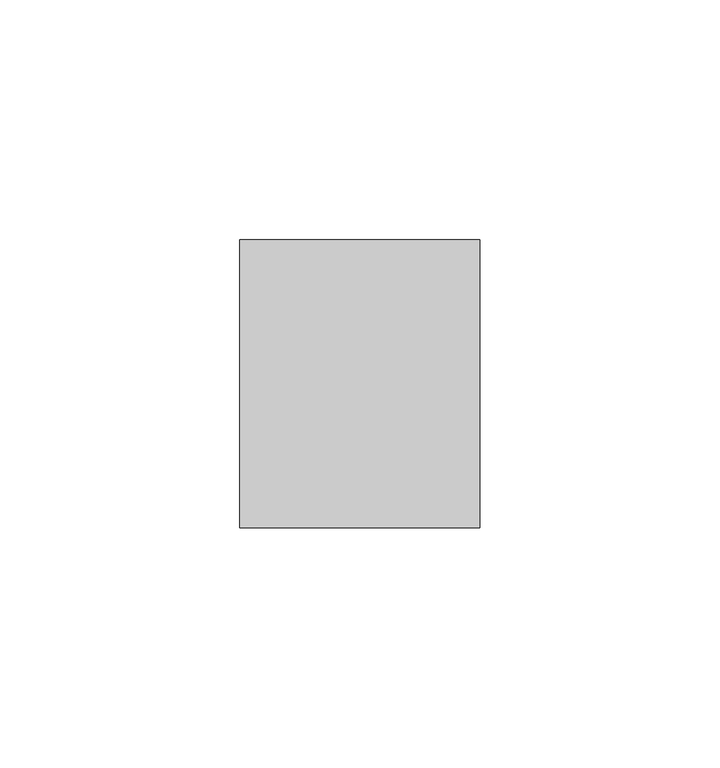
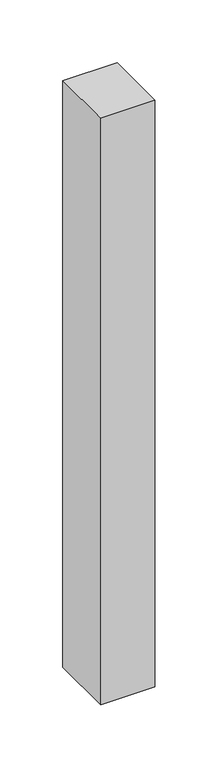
"""IFC4 building model written with IfcOpenShell, lengths in millimetres: plate geometry, Системная панель : Алюкобонд серый."""

from ifc_helpers import new_model, si_unit, origin, origin_with_axes, place, context, project, spatial, polyline, outline, extrude, source, transform, mapped, element, save


def plate_70bdd392(model_context):
    return source(origin(), model_context, "Body", "SweptSolid", [
        extrude(outline(polyline([(25.0, -10.5), (-25.0, -10.5), (-25.0, 49.5), (25.0, 49.5), (25.0, -10.5)])), origin_with_axes(), (0.0, 0.0, 1.0), 570.0),
    ])


if __name__ == "__main__":
    model = new_model("IFC4")
    model_context = context("Model", 3, world=origin())
    ifc_project = project(units=[si_unit("LENGTHUNIT", "METRE", prefix="MILLI")], contexts=[model_context])
    site = spatial("IfcSite", under=ifc_project)
    building = spatial("IfcBuilding", under=site)
    placement = place(None, origin())
    plate_shape = plate_70bdd392(model_context)
    element("IfcPlate", 1, ObjectType="Системная панель : Алюкобонд серый", at=placement, inside=building, context=model_context, shape_type="MappedRepresentation", body=[
        mapped(plate_shape, transform((0.0, 0.0, 0.0), x_axis=(1.0, 0.0, 0.0), y_axis=(0.0, 1.0, 0.0), z_axis=(0.0, 0.0, 1.0))),
    ])
    save(model, "model.ifc")
